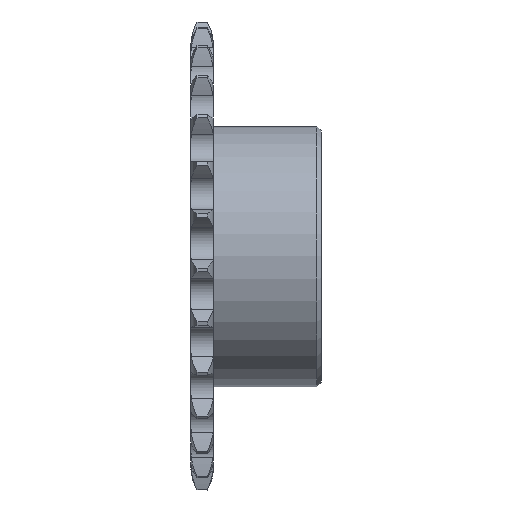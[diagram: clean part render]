
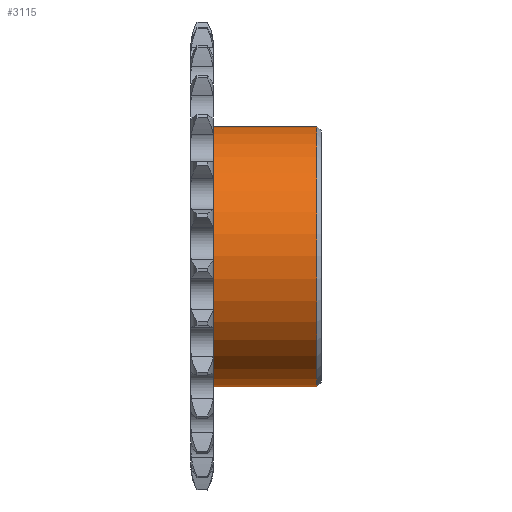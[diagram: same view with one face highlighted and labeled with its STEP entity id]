
A CAD part, top view. The second image highlights one B-rep face of the part: STEP entity #3115.
In plain terms, the highlighted cylindrical face has radius 15 mm (diameter 30 mm), a full revolution.
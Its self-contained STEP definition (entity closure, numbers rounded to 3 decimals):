
#19=FACE_BOUND('',#587,.T.);
#244=CIRCLE('',#3447,15.);
#246=CIRCLE('',#3451,15.);
#415=FACE_OUTER_BOUND('',#586,.T.);
#586=EDGE_LOOP('',(#2775));
#587=EDGE_LOOP('',(#2776));
#1356=VERTEX_POINT('',#6207);
#1357=VERTEX_POINT('',#6212);
#1848=EDGE_CURVE('',#1356,#1356,#244,.T.);
#1850=EDGE_CURVE('',#1357,#1357,#246,.T.);
#2775=ORIENTED_EDGE('',*,*,#1848,.T.);
#2776=ORIENTED_EDGE('',*,*,#1850,.F.);
#2950=CYLINDRICAL_SURFACE('',#3450,15.);
#3115=ADVANCED_FACE('',(#415,#19),#2950,.T.);
#3447=AXIS2_PLACEMENT_3D('',#6208,#4219,#4220);
#3450=AXIS2_PLACEMENT_3D('',#6211,#4225,#4226);
#3451=AXIS2_PLACEMENT_3D('',#6213,#4227,#4228);
#4219=DIRECTION('center_axis',(1.,0.,0.));
#4220=DIRECTION('ref_axis',(0.,0.,-1.));
#4225=DIRECTION('center_axis',(1.,0.,0.));
#4226=DIRECTION('ref_axis',(0.,1.,0.));
#4227=DIRECTION('center_axis',(1.,0.,0.));
#4228=DIRECTION('ref_axis',(0.,0.,-1.));
#6207=CARTESIAN_POINT('',(-7.828,2.296,0.));
#6208=CARTESIAN_POINT('Origin',(-7.828,-12.704,0.));
#6211=CARTESIAN_POINT('Origin',(-1.878,-12.704,0.));
#6212=CARTESIAN_POINT('',(4.072,2.296,0.));
#6213=CARTESIAN_POINT('Origin',(4.072,-12.704,0.));
